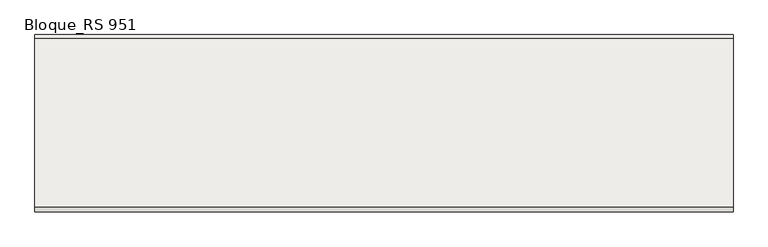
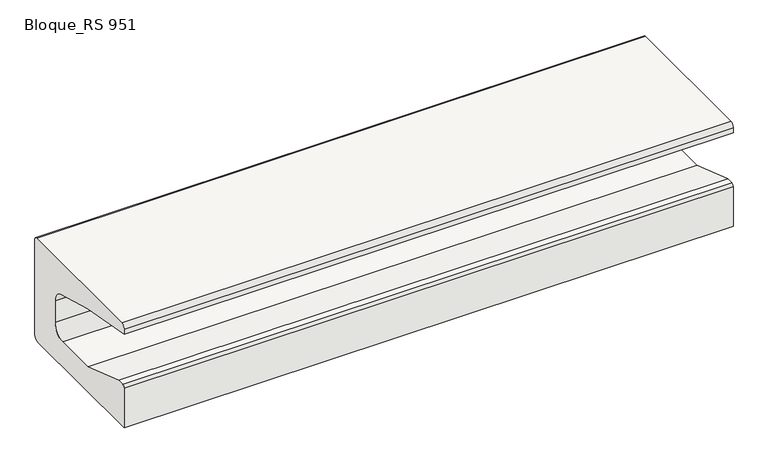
"""IFC4 building model written with IfcOpenShell, lengths in millimetres: slab geometry, ROSA GRES_RS 951 : Bloque_RS 951."""

from ifc_helpers import new_model, si_unit, point, frame, frame_2d, origin, place, context, project, spatial, polyline, circle_curve, trimmed, segment, composite_curve, outline, extrude, source, transform, mapped, element, save


def bloque_rs_951_10da1a55(model_context):
    return source(origin(), model_context, "Body", "SweptSolid", [
        extrude(outline(composite_curve([segment(polyline([(20.0, 10.0), (20.0, 90.0094288)]), True, "CONTINUOUS"), segment(trimmed(circle_curve(frame_2d((25.0, 90.0094288)), 5.0), [point((20.0, 90.0094288))], [point((25.0, 95.0094288))], False, "CARTESIAN"), True, "CONTINUOUS"), segment(polyline([(25.0, 95.0094288), (38.2035251, 95.0094288), (141.2759641, 60.0838698), (225.0599333, 60.0838698)]), True, "CONTINUOUS"), segment(trimmed(circle_curve(frame_2d((225.2461128, 84.8382752)), 24.7551055), [point((225.0599333, 60.0838698))], [point((250.0, 85.0838698))], True, "CARTESIAN"), True, "CONTINUOUS"), segment(polyline([(250.0, 85.0838698), (250.0, 128.9393377)]), True, "CONTINUOUS"), segment(trimmed(circle_curve(frame_2d((225.2461128, 129.1849323)), 24.7551055), [point((250.0, 128.9393377))], [point((231.9063097, 153.0272691))], True, "CARTESIAN"), True, "CONTINUOUS"), segment(polyline([(231.9063097, 153.0272691), (141.4794893, 178.287395), (19.9999903, 200.0838698), (19.9999903, 210.2775772)]), True, "CONTINUOUS"), segment(trimmed(circle_curve(frame_2d((27.9999903, 210.2775772)), 8.0), [point((19.9999903, 210.2775772))], [point((27.9999903, 218.2775772))], False, "CARTESIAN"), True, "CONTINUOUS"), segment(polyline([(27.9999903, 218.2775772), (311.9003845, 218.2775772)]), True, "CONTINUOUS"), segment(trimmed(circle_curve(frame_2d((312.2133333, 213.297208)), 4.9901918), [point((311.9003845, 218.2775772))], [point((317.2035155, 213.2873902))], False, "CARTESIAN"), True, "CONTINUOUS"), segment(polyline([(317.2035155, 213.2873902), (317.2035155, 20.0)]), True, "CONTINUOUS"), segment(trimmed(circle_curve(frame_2d((307.2035155, 20.0)), 10.0), [point((317.2035155, 20.0))], [point((307.2035155, 10.0))], False, "CARTESIAN"), True, "CONTINUOUS"), segment(polyline([(307.2035155, 10.0), (20.0, 10.0)]), True, "CONTINUOUS")], self_intersect=False)), frame((0.0, 0.0, 0.0), z_axis=(1.0, 0.0, 0.0), x_axis=(0.0, 1.0, 0.0)), (0.0, 0.0, 1.0), 1170.5),
    ])


if __name__ == "__main__":
    model = new_model("IFC4")
    model_context = context("Model", 3, world=origin())
    ifc_project = project(units=[si_unit("LENGTHUNIT", "METRE", prefix="MILLI")], contexts=[model_context])
    site = spatial("IfcSite", under=ifc_project)
    building = spatial("IfcBuilding", under=site)
    placement = place(None, origin())
    bloque_rs_951_shape = bloque_rs_951_10da1a55(model_context)
    element("IfcSlab", 1, ObjectType="ROSA GRES_RS 951 : Bloque_RS 951", at=placement, inside=building, context=model_context, shape_type="MappedRepresentation", body=[
        mapped(bloque_rs_951_shape, transform((0.0, 0.0, 0.0), x_axis=(1.0, 0.0, 0.0), y_axis=(0.0, 1.0, 0.0), z_axis=(0.0, 0.0, 1.0))),
    ])
    save(model, "model.ifc")
